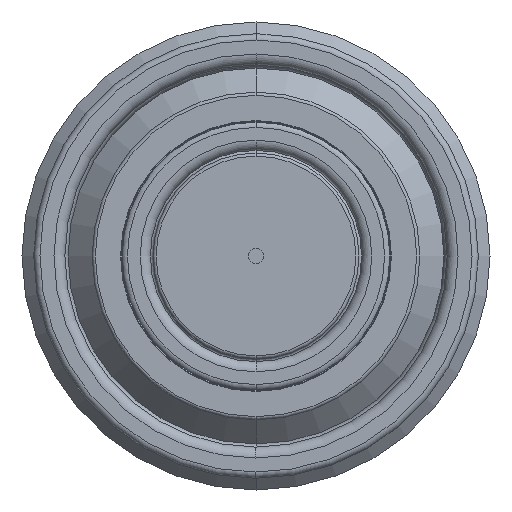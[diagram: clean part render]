
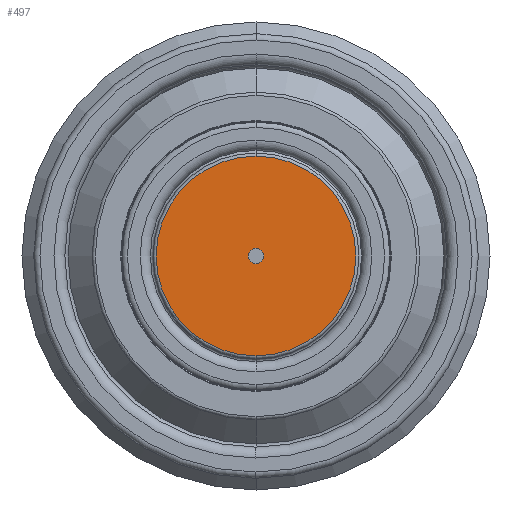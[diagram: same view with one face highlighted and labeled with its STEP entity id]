
A CAD part, front view. The second image highlights one B-rep face of the part: STEP entity #497.
In plain terms, the highlighted planar face has unit normal (0, -1, 0).
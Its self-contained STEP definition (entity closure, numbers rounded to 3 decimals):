
#251=PLANE('',#3135);
#287=FACE_BOUND('',#889,.T.);
#288=FACE_BOUND('',#890,.T.);
#497=ADVANCED_FACE('',(#287,#288),#251,.T.);
#889=EDGE_LOOP('',(#1692,#1693));
#890=EDGE_LOOP('',(#1694,#1695));
#1692=ORIENTED_EDGE('',*,*,#2467,.T.);
#1693=ORIENTED_EDGE('',*,*,#2491,.T.);
#1694=ORIENTED_EDGE('',*,*,#2490,.F.);
#1695=ORIENTED_EDGE('',*,*,#2471,.F.);
#2128=VERTEX_POINT('',#5001);
#2129=VERTEX_POINT('',#5003);
#2132=VERTEX_POINT('',#5010);
#2133=VERTEX_POINT('',#5012);
#2467=EDGE_CURVE('',#2129,#2128,#2748,.T.);
#2471=EDGE_CURVE('',#2132,#2133,#2751,.T.);
#2490=EDGE_CURVE('',#2133,#2132,#2759,.T.);
#2491=EDGE_CURVE('',#2128,#2129,#2760,.T.);
#2748=CIRCLE('',#3113,6.4);
#2751=CIRCLE('',#3117,0.5);
#2759=CIRCLE('',#3132,0.5);
#2760=CIRCLE('',#3134,6.4);
#3113=AXIS2_PLACEMENT_3D('',#5002,#3954,#3955);
#3117=AXIS2_PLACEMENT_3D('',#5011,#3963,#3964);
#3132=AXIS2_PLACEMENT_3D('',#5200,#3994,#3995);
#3134=AXIS2_PLACEMENT_3D('',#5202,#3998,#3999);
#3135=AXIS2_PLACEMENT_3D('',#5203,#4000,#4001);
#3954=DIRECTION('',(0.,-1.,0.));
#3955=DIRECTION('',(0.,0.,-1.));
#3963=DIRECTION('',(0.,-1.,0.));
#3964=DIRECTION('',(0.,0.,-1.));
#3994=DIRECTION('',(0.,-1.,0.));
#3995=DIRECTION('',(0.,0.,-1.));
#3998=DIRECTION('',(0.,-1.,0.));
#3999=DIRECTION('',(0.,0.,-1.));
#4000=DIRECTION('',(0.,-1.,0.));
#4001=DIRECTION('',(0.,0.,1.));
#5001=CARTESIAN_POINT('',(0.,6.635,6.4));
#5002=CARTESIAN_POINT('',(0.,6.635,0.));
#5003=CARTESIAN_POINT('',(0.,6.635,-6.4));
#5010=CARTESIAN_POINT('',(0.,6.635,0.5));
#5011=CARTESIAN_POINT('',(0.,6.635,0.));
#5012=CARTESIAN_POINT('',(0.,6.635,-0.5));
#5200=CARTESIAN_POINT('',(0.,6.635,0.));
#5202=CARTESIAN_POINT('',(0.,6.635,0.));
#5203=CARTESIAN_POINT('',(0.,6.635,0.));
